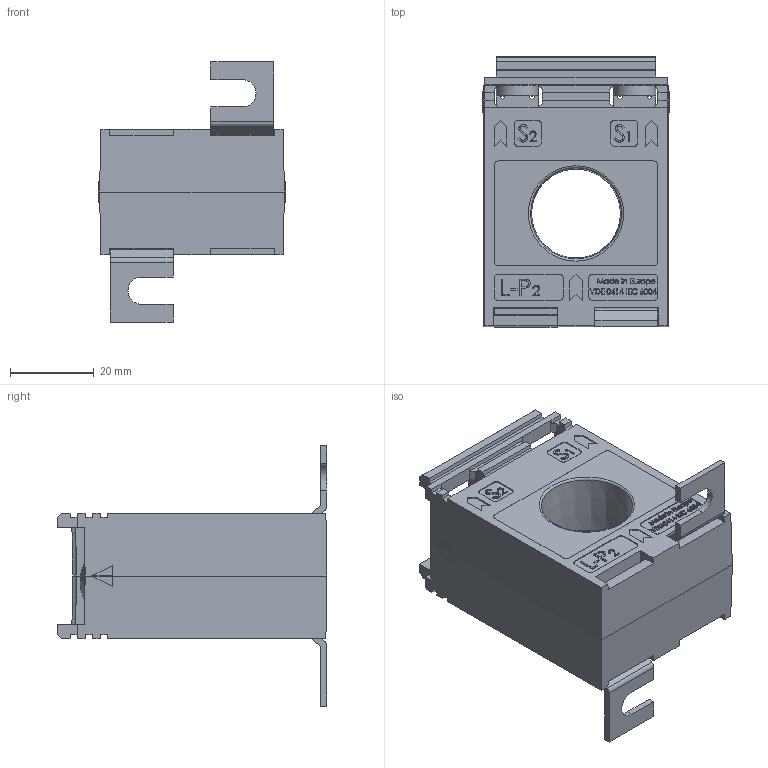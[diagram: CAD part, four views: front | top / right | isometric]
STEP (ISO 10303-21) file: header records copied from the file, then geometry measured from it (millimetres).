
FILE_DESCRIPTION(/* description */ (''),/* implementation_level */ '2;1');
FILE_NAME(/* name */ 'ASR201.3.stp',/* time_stamp */ '2024-03-05T09:56:21+01:00',/* author */ ('JDI'),/* organization */ (''),/* preprocessor_version */ 'ST-DEVELOPER v19.2',/* originating_system */ 'Autodesk Inventor 2023',/* authorisation */ '');
FILE_SCHEMA (('AUTOMOTIVE_DESIGN { 1 0 10303 214 3 1 1 }'));
Products named in the file (1): ASR201.3
Bounding box: 44.4 x 64.3 x 62 mm (x, y, z)
Volume: 63015.1 mm3; surface area: 19067.9 mm2
Topology: 1 solids, 1 shells, 1268 faces, 3354 edges, 2198 vertices
Faces by surface type: plane 886, bspline 312, cylinder 48, cone 10, torus 6, sphere 6
Full cylindrical faces by diameter (mm): 10 x2
Entity records: 56887 total; most frequent: CARTESIAN_POINT 26165, ORIENTED_EDGE 6708, DIRECTION 4822, EDGE_CURVE 3354, LINE 2544, VECTOR 2544, VERTEX_POINT 2198, EDGE_LOOP 1400
